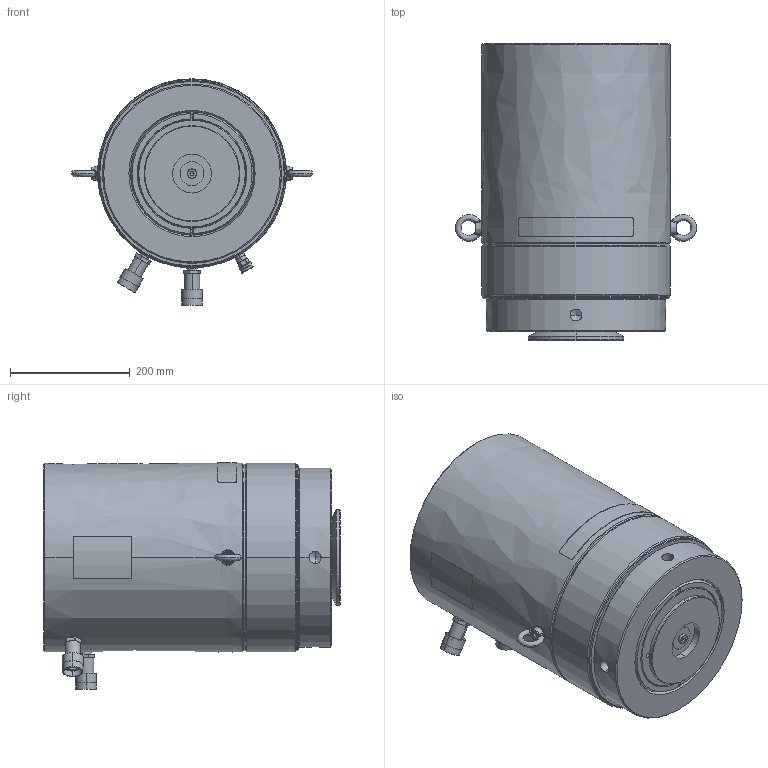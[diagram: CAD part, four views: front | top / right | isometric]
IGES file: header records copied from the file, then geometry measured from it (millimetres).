
Start section:  PTC IGES file: HCRL3008.igs
Global section: file name: HCRL3008.igs; native system: Creo Parametric by PTC Inc.; preprocessor: 2017020; author: mike.ward; organization: Unknown; date: 20180601.131219; units: inch
Bounding box: 402.83 x 495.88 x 378.11 mm (x, y, z)
Volume: 16512762.3 mm3; surface area: 1165625.2 mm2
Topology: 1 solids, 3 shells, 533 faces, 1259 edges, 752 vertices
Faces by surface type: revolution 345, bspline 188
